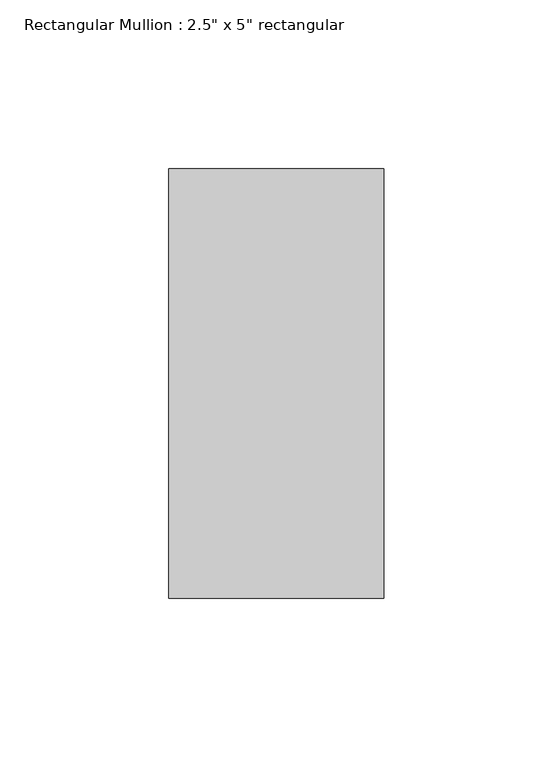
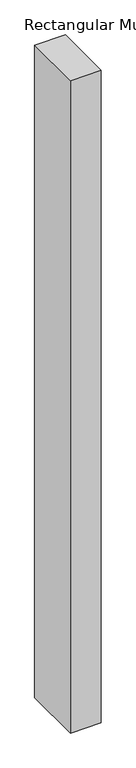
"""IFC4 building model written with IfcOpenShell, lengths in millimetres: member geometry."""

from ifc_helpers import new_model, si_unit, frame, origin, place, context, project, spatial, polyline, outline, extrude, source, transform, mapped, element, save


def member_b77c5b4e(model_context):
    return source(origin(), model_context, "Body", "SweptSolid", [
        extrude(outline(polyline([(0.0, 50.8), (0.0, -76.2), (-63.5, -76.2), (-63.5, 50.8), (0.0, 50.8)])), frame((0.0, 0.0, -1419.225), z_axis=(0.0, 0.0, 1.0), x_axis=(1.0, 0.0, 0.0)), (0.0, 0.0, 1.0), 1419.225),
    ])


if __name__ == "__main__":
    model = new_model("IFC4")
    model_context = context("Model", 3, world=origin())
    ifc_project = project(units=[si_unit("LENGTHUNIT", "METRE", prefix="MILLI")], contexts=[model_context])
    site = spatial("IfcSite", under=ifc_project)
    building = spatial("IfcBuilding", under=site)
    placement = place(None, origin())
    member_shape = member_b77c5b4e(model_context)
    element("IfcMember", 1, ObjectType="Rectangular Mullion : 2.5\" x 5\" rectangular", at=placement, inside=building, context=model_context, shape_type="MappedRepresentation", body=[
        mapped(member_shape, transform((0.0, 0.0, 0.0), x_axis=(1.0, 0.0, 0.0), y_axis=(0.0, 1.0, 0.0), z_axis=(0.0, 0.0, 1.0))),
    ])
    save(model, "model.ifc")
